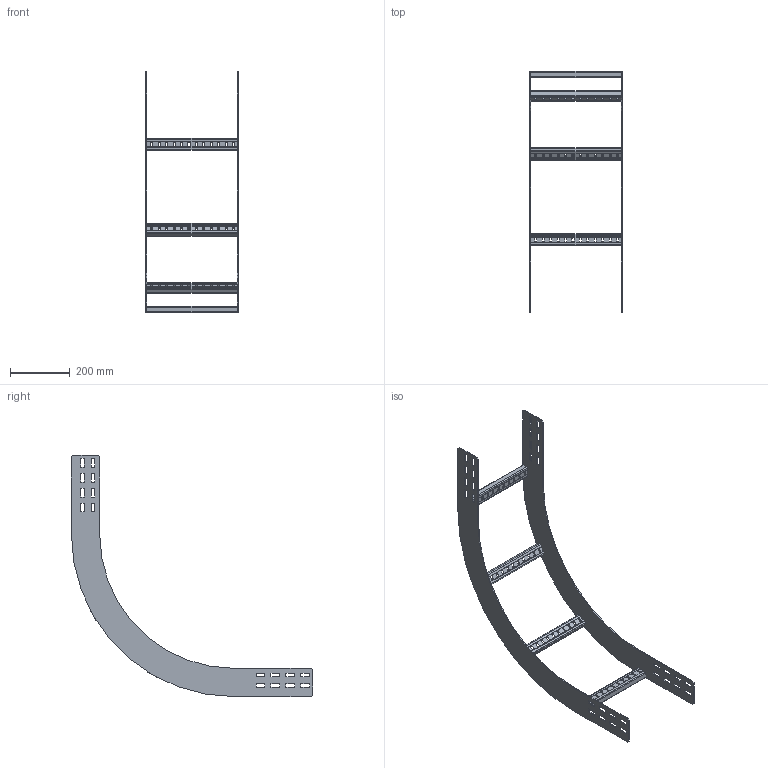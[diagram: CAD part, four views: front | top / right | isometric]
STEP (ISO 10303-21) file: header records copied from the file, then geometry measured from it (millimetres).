
FILE_DESCRIPTION(('Creo Elements/Direct Modeling STEP Export'),'2;1');
FILE_NAME('WPIR10-30-90-45.stp','2016-06-01T14:55:19',(''),(''),'PTC Creo Elements/Direct Modeling STEP processor for AP214 (Solid Model)','PTC Creo Elements/Direct Modeling 19.0C 15-Aug-2015 (C) Parametric Technology GmbH','');
FILE_SCHEMA(('AUTOMOTIVE_DESIGN { 1 0 10303 214 1 1 1 1 }'));
Length unit declared in the file: millimetre
Products named in the file (3): WPIBG100_450; WPHBS30; WPIR10-30-90-45
Assembly tree (6 placements, depth 2):
  WPIR10-30-90-45
    WPHBS30  x4
    WPIBG100_450  x2
Bounding box: 311 x 810 x 810 mm (x, y, z)
Volume: 892215.5 mm3; surface area: 746125.3 mm2
Topology: 6 solids, 6 shells, 508 faces, 1488 edges, 992 vertices
Faces by surface type: plane 336, cylinder 172
Entity records: 5692 total; most frequent: CARTESIAN_POINT 982, ORIENTED_EDGE 972, DIRECTION 918, EDGE_CURVE 486, VECTOR 398, LINE 398, VERTEX_POINT 324, AXIS2_PLACEMENT_3D 260
